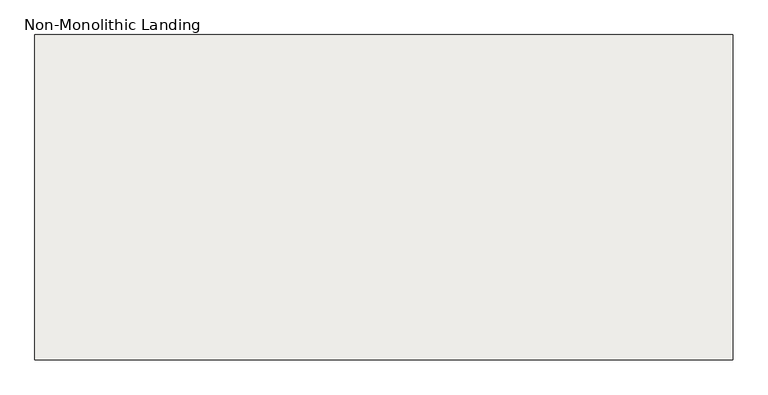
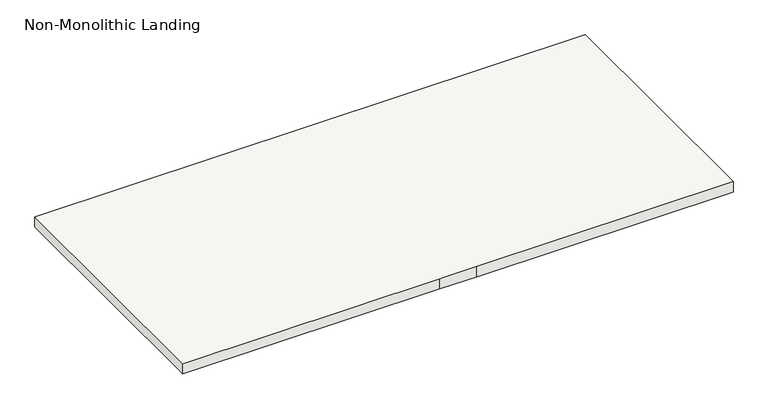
"""IFC4 building model written with IfcOpenShell, lengths in millimetres: slab geometry, Non-Monolithic Landing."""

from ifc_helpers import new_model, si_unit, frame, origin, place, context, project, spatial, polyline, outline, extrude, source, transform, mapped, element, save


def non_monolithic_landing_3aaa77b9(model_context):
    return source(origin(), model_context, "Body", "SweptSolid", [
        extrude(outline(polyline([(-6816.8915125, 9937.8006), (-6994.006756, 9937.8006), (-8213.206756, 9937.8006), (-8213.206756, 11157.0006), (-5597.6915125, 11157.0006), (-5597.6915125, 9937.8006), (-6816.8915125, 9937.8006)])), frame((0.0, 0.0, 1371.6), z_axis=(0.0, 0.0, 1.0), x_axis=(1.0, 0.0, 0.0)), (0.0, 0.0, 1.0), 50.8),
    ])


if __name__ == "__main__":
    model = new_model("IFC4")
    model_context = context("Model", 3, world=origin())
    ifc_project = project(units=[si_unit("LENGTHUNIT", "METRE", prefix="MILLI")], contexts=[model_context])
    site = spatial("IfcSite", under=ifc_project)
    building = spatial("IfcBuilding", under=site)
    placement = place(None, origin())
    non_monolithic_landing_shape = non_monolithic_landing_3aaa77b9(model_context)
    element("IfcSlab", 1, ObjectType="Non-Monolithic Landing", at=placement, inside=building, context=model_context, shape_type="MappedRepresentation", body=[
        mapped(non_monolithic_landing_shape, transform((0.0, 0.0, 0.0), x_axis=(1.0, 0.0, 0.0), y_axis=(0.0, 1.0, 0.0), z_axis=(0.0, 0.0, 1.0))),
    ])
    save(model, "model.ifc")
